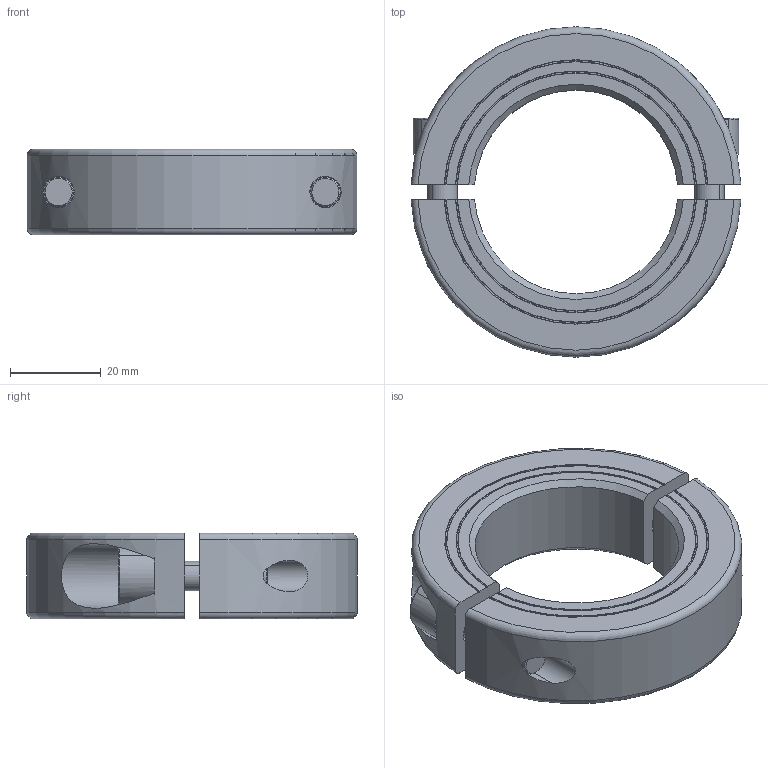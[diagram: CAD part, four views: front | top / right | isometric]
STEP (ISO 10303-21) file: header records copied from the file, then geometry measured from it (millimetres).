
FILE_DESCRIPTION((''),'2;1');
FILE_NAME('MSP-45-X','2016-09-09T',('SYSTEM'),(''),'PRO/ENGINEER BY PARAMETRIC TECHNOLOGY CORPORATION, 2015110','PRO/ENGINEER BY PARAMETRIC TECHNOLOGY CORPORATION, 2015110','');
FILE_SCHEMA(('AUTOMOTIVE_DESIGN { 1 0 10303 214 1 1 1 1 }'));
Length unit declared in the file: inch
Products named in the file (1): MSP-45-X
Bounding box: 72.93 x 73 x 19 mm (x, y, z)
Volume: 44507.5 mm3; surface area: 16041.1 mm2
Topology: 2 solids, 2 shells, 90 faces, 222 edges, 144 vertices
Faces by surface type: plane 36, cylinder 26, cone 20, torus 8
Entity records: 3629 total; most frequent: CARTESIAN_POINT 820, ORIENTED_EDGE 444, DIRECTION 430, EDGE_CURVE 222, AXIS2_PLACEMENT_3D 168, VERTEX_POINT 144, EDGE_LOOP 102, VECTOR 94
